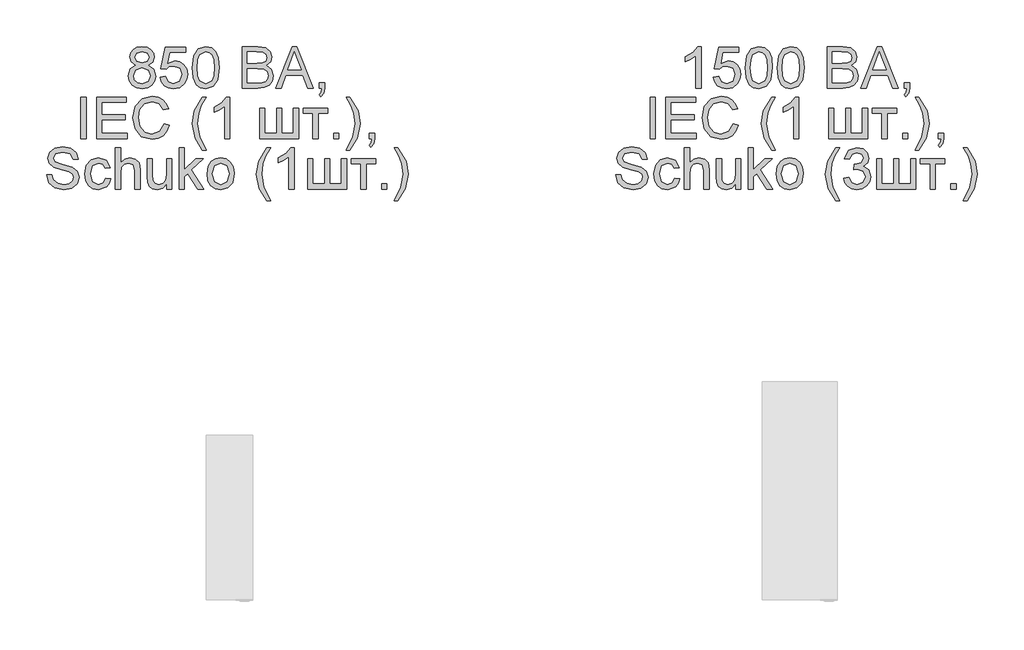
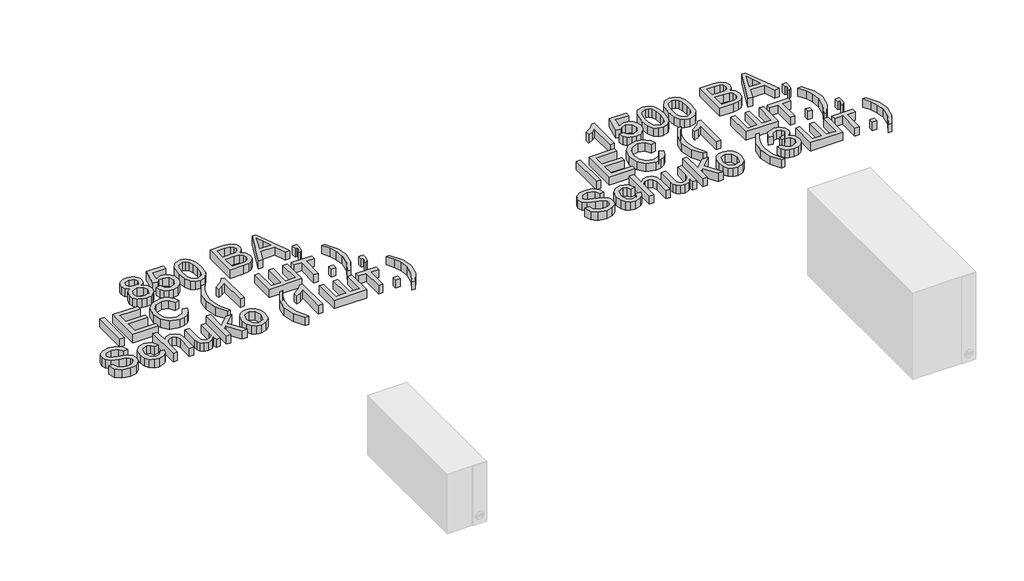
# One storey, part 13 of 74: 2 proxies.
"""IFC4 building model written with IfcOpenShell, lengths in millimetres."""

from ifc_helpers import new_model, si_unit, origin, origin_with_axes, place, context, project, spatial, polyline, outline, extrude, element, save

model = new_model("IFC4")

# Units and contexts
model_context = context("Model", 3, world=origin())
ifc_project = project(units=[si_unit("LENGTHUNIT", "METRE", prefix="MILLI")], contexts=[model_context])

# Site, building, storey
site = spatial("IfcSite", under=ifc_project)
building = spatial("IfcBuilding", under=site)
storey = spatial("IfcBuildingStorey", under=building, Name="Этаж 01", Elevation=0.0)

# Proxies
placement = place(None, origin())
element("IfcBuildingElementProxy", 1, Name="80 мм Arial", ObjectType="80 мм Arial", at=placement, inside=storey, context=model_context, shape_type="SweptSolid", body=[
    extrude(outline(polyline([(1171.9686219, -31023.994103), (1162.8157178, -31017.7548243), (1159.8432313, -31008.0427397), (1161.4619121, -31000.1896853), (1166.3179544, -30993.7002469), (1173.866893, -30989.3445241), (1183.5642624, -30987.8926165), (1193.3204929, -30989.3788598), (1200.9675333, -30993.8375895), (1205.9118673, -31000.4300349), (1207.5599786, -31008.3174249), (1204.6267329, -31017.7842549), (1195.7288937, -31023.994103), (1206.4121868, -31031.8716828), (1210.0713864, -31044.8701799), (1208.2565019, -31054.4743525), (1202.8118484, -31062.4107934), (1194.4045185, -31067.7377247), (1183.701605, -31069.5133685), (1172.9986915, -31067.7303671), (1164.5913616, -31062.3813629), (1159.1467081, -31054.368893), (1157.3318236, -31044.5954947), (1161.1381759, -31031.2928817), (1171.9686219, -31023.994103)]), holes=[polyline([(1169.8888623, -31008.3370452), (1173.4499601, -31016.2244352), (1183.8193272, -31019.2852134), (1193.9826805, -31016.2440556), (1197.5143476, -31008.7883138), (1193.8649582, -31001.067697), (1183.701605, -30997.9382475), (1173.5088212, -31000.9990257), (1169.8888623, -31008.3370452)]), polyline([(1167.3774546, -31044.242328), (1169.0549965, -31051.8059818), (1174.9901593, -31057.4664594), (1183.7800865, -31059.4677375), (1195.7485141, -31055.2591675), (1200.0257554, -31044.5562539), (1195.6111714, -31033.6473265), (1183.4465401, -31029.3308444), (1171.6252654, -31033.5884654), (1167.3774546, -31044.242328)])]), origin_with_axes(), (0.0, 0.0, 1.0), 20.0),
    extrude(outline(polyline([(1218.8613135, -31046.9106987), (1228.9069446, -31045.6549948), (1233.9690008, -31056.0047416), (1244.4659004, -31059.4677375), (1257.0621799, -31054.6509359), (1261.5552453, -31041.8682628), (1257.3466753, -31029.939076), (1244.6228634, -31025.5637328), (1235.8035057, -31027.309946), (1230.1626484, -31031.8422522), (1220.1170174, -31030.5865483), (1228.9069446, -30989.1483204), (1267.8337647, -30989.1483204), (1267.8337647, -30999.1939514), (1237.029779, -30999.1939514), (1232.7329173, -31021.3257322), (1247.4285767, -31015.5181018), (1256.8144727, -31017.318271), (1264.6062134, -31022.7187787), (1269.8522106, -31030.9495252), (1271.6008764, -31041.2404109), (1270.0263414, -31051.2860419), (1265.3027366, -31059.8797653), (1256.2577446, -31067.1049677), (1244.4266597, -31069.5133685), (1234.5600645, -31067.9658116), (1226.6996526, -31063.3231408), (1221.3114076, -31056.1249164), (1218.8613135, -31046.9106987)])), origin_with_axes(), (0.0, 0.0, 1.0), 20.0),
    extrude(outline(polyline([(1280.3908035, -31028.7226129), (1283.3436697, -31005.6000032), (1292.1139764, -30992.2679597), (1306.7605849, -30987.8926165), (1318.493568, -30990.4825058), (1326.5967821, -30997.9480577), (1331.3056716, -31009.8380038), (1333.1303663, -31028.7226129), (1330.2069307, -31051.7471207), (1321.4660545, -31065.1085947), (1306.7605849, -31069.5133685), (1296.3225464, -31067.6003821), (1288.3959157, -31061.861423), (1282.3920816, -31048.2694096), (1280.3908035, -31028.7226129)]), holes=[polyline([(1290.4364345, -31028.7029925), (1291.6136569, -31044.5047505), (1295.1453241, -31053.6502969), (1306.7605849, -31059.4677375), (1318.3758458, -31053.6306765), (1321.9075129, -31044.480225), (1323.0847353, -31028.7029925), (1321.9467537, -31013.2568538), (1318.5328088, -31004.0401835), (1313.284359, -30999.4637315), (1306.6428627, -30997.9382475), (1295.302287, -31003.3142297), (1291.6528976, -31013.1047959), (1290.4364345, -31028.7029925)])]), origin_with_axes(), (0.0, 0.0, 1.0), 20.0),
    extrude(outline(polyline([(1377.080002, -31068.2576646), (1377.080002, -30987.8926165), (1407.7466451, -30987.8926165), (1422.7660407, -30990.2568715), (1431.6344494, -30997.5262197), (1434.8423804, -31007.8072952), (1432.1445791, -31017.1956437), (1423.992314, -31024.3080289), (1433.8907923, -31031.8030114), (1437.3537881, -31044.3011891), (1434.9895332, -31055.1022045), (1429.1328518, -31062.7933907), (1420.3919756, -31066.8744283), (1407.5112007, -31068.2576646), (1377.080002, -31068.2576646)]), holes=[polyline([(1387.125633, -31020.5409173), (1405.4706819, -31020.5409173), (1416.1834056, -31019.6776209), (1422.6286981, -31015.9595602), (1424.7967493, -31009.4161658), (1422.7758509, -31002.8629612), (1416.9878409, -30998.9879375), (1404.0776354, -30997.9382475), (1387.125633, -30997.9382475), (1387.125633, -31020.5409173)]), polyline([(1387.125633, -31058.2120336), (1407.7270248, -31058.2120336), (1415.1827665, -31057.8196261), (1421.4907165, -31055.6319545), (1425.6698559, -31051.1683197), (1427.3081571, -31044.399291), (1425.3853605, -31036.5903825), (1419.1558921, -31031.9305439), (1406.7460061, -31030.5865483), (1387.125633, -31030.5865483), (1387.125633, -31058.2120336)])]), origin_with_axes(), (0.0, 0.0, 1.0), 20.0),
    extrude(outline(polyline([(1441.8076128, -31068.2576646), (1473.8869228, -30987.8926165), (1482.4414054, -30987.8926165), (1514.5207154, -31068.2576646), (1503.9060936, -31068.2576646), (1494.7041386, -31043.1435871), (1461.6045692, -31043.1435871), (1452.4222346, -31068.2576646), (1441.8076128, -31068.2576646)]), holes=[polyline([(1465.2931994, -31033.0979561), (1491.0351288, -31033.0979561), (1483.7952112, -31013.3402404), (1478.1641641, -30997.9382475), (1473.160969, -31011.6136476), (1465.2931994, -31033.0979561)])]), origin_with_axes(), (0.0, 0.0, 1.0), 20.0),
    extrude(outline(polyline([(1526.5087634, -31068.2576646), (1526.5087634, -31058.2120336), (1536.5543944, -31058.2120336), (1536.5543944, -31068.2576646), (1534.7493201, -31078.5289299), (1529.0201711, -31084.581815), (1526.5087634, -31080.8147034), (1530.1973935, -31076.4786009), (1531.5119585, -31068.2576646), (1526.5087634, -31068.2576646)])), origin_with_axes(), (0.0, 0.0, 1.0), 20.0),
    extrude(outline(polyline([(1065.6654406, -31165.8375189), (1065.6654406, -31085.4724708), (1075.7110716, -31085.4724708), (1075.7110716, -31165.8375189), (1065.6654406, -31165.8375189)])), origin_with_axes(), (0.0, 0.0, 1.0), 20.0),
    extrude(outline(polyline([(1095.8023336, -31165.8375189), (1095.8023336, -31085.4724708), (1153.5647119, -31085.4724708), (1153.5647119, -31095.5181018), (1105.8479646, -31095.5181018), (1105.8479646, -31119.3764755), (1151.0533042, -31119.3764755), (1151.0533042, -31129.4221065), (1105.8479646, -31129.4221065), (1105.8479646, -31155.7918879), (1154.8204158, -31155.7918879), (1154.8204158, -31165.8375189), (1095.8023336, -31165.8375189)])), origin_with_axes(), (0.0, 0.0, 1.0), 20.0),
    extrude(outline(polyline([(1226.3955368, -31137.2702557), (1236.4411678, -31139.8601449), (1231.8058547, -31151.56615), (1224.5316014, -31160.1181801), (1214.9764797, -31165.3494621), (1203.4985614, -31167.0932228), (1182.5930539, -31161.8153424), (1170.3303207, -31146.5310718), (1166.1217507, -31125.0467633), (1170.8796912, -31103.209288), (1184.4079384, -31089.0531889), (1203.7143855, -31084.2167669), (1214.7287725, -31085.7814917), (1223.8350781, -31090.4756659), (1230.7488071, -31098.0098892), (1235.1854639, -31108.0947609), (1225.1398329, -31110.4884465), (1216.8992762, -31098.1374216), (1203.3219781, -31094.2623979), (1187.6060592, -31098.5592596), (1178.7278404, -31110.096039), (1176.1673817, -31125.0271429), (1179.1987294, -31142.332312), (1188.6361288, -31153.3883922), (1202.4979224, -31157.0475918), (1217.8704847, -31152.064017), (1226.3955368, -31137.2702557)])), origin_with_axes(), (0.0, 0.0, 1.0), 20.0),
    extrude(outline(polyline([(1300.4820655, -31188.4401887), (1286.2180543, -31164.8761206), (1280.3908035, -31136.8974686), (1284.7465263, -31112.4701041), (1300.4820655, -31085.4724708), (1308.0162888, -31085.4724708), (1298.6181301, -31101.3845933), (1292.9674626, -31116.8062066), (1290.4364345, -31136.9563297), (1294.8313981, -31162.7080694), (1308.0162888, -31188.4401887), (1300.4820655, -31188.4401887)])), origin_with_axes(), (0.0, 0.0, 1.0), 20.0),
    extrude(outline(polyline([(1353.2216284, -31165.8375189), (1343.1759973, -31165.8375189), (1343.1759973, -31103.209288), (1333.6601164, -31109.9881269), (1323.0847353, -31115.0599934), (1323.0847353, -31105.5637328), (1337.8098253, -31096.1655741), (1346.7469052, -31085.4724708), (1353.2216284, -31085.4724708), (1353.2216284, -31165.8375189)])), origin_with_axes(), (0.0, 0.0, 1.0), 20.0),
    extrude(outline(polyline([(1410.9840067, -31106.8194367), (1421.0296377, -31106.8194367), (1421.0296377, -31155.7918879), (1443.6323075, -31155.7918879), (1443.6323075, -31106.8194367), (1453.6779385, -31106.8194367), (1453.6779385, -31155.7918879), (1476.2806083, -31155.7918879), (1476.2806083, -31106.8194367), (1486.3262393, -31106.8194367), (1486.3262393, -31165.8375189), (1410.9840067, -31165.8375189), (1410.9840067, -31106.8194367)])), origin_with_axes(), (0.0, 0.0, 1.0), 20.0),
    extrude(outline(polyline([(1495.1161664, -31106.8194367), (1542.8329138, -31106.8194367), (1542.8329138, -31116.8650677), (1523.9973556, -31116.8650677), (1523.9973556, -31165.8375189), (1513.9517246, -31165.8375189), (1513.9517246, -31116.8650677), (1495.1161664, -31116.8650677), (1495.1161664, -31106.8194367)])), origin_with_axes(), (0.0, 0.0, 1.0), 20.0),
    extrude(outline(polyline([(1554.1342487, -31165.8375189), (1554.1342487, -31155.7918879), (1564.1798797, -31155.7918879), (1564.1798797, -31165.8375189), (1554.1342487, -31165.8375189)])), origin_with_axes(), (0.0, 0.0, 1.0), 20.0),
    extrude(outline(polyline([(1585.5268456, -31188.4401887), (1577.9926223, -31188.4401887), (1591.177513, -31162.7080694), (1595.5724766, -31136.9563297), (1593.0414485, -31116.9827899), (1587.4496421, -31101.5415563), (1577.9926223, -31085.4724708), (1585.5268456, -31085.4724708), (1601.2623848, -31112.4701041), (1605.6181076, -31136.8974686), (1599.7614262, -31164.8761206), (1585.5268456, -31188.4401887)])), origin_with_axes(), (0.0, 0.0, 1.0), 20.0),
    extrude(outline(polyline([(1623.1979619, -31165.8375189), (1623.1979619, -31155.7918879), (1633.2435929, -31155.7918879), (1633.2435929, -31165.8375189), (1631.4385186, -31176.1087842), (1625.7093696, -31182.1616693), (1623.1979619, -31178.3945577), (1626.886592, -31174.0584552), (1628.201157, -31165.8375189), (1623.1979619, -31165.8375189)])), origin_with_axes(), (0.0, 0.0, 1.0), 20.0),
    extrude(outline(polyline([(999.1131351, -31235.7918879), (1009.1587661, -31235.7918879), (1012.3961277, -31245.8473291), (1020.303138, -31252.20433), (1032.3500471, -31254.627446), (1042.8469467, -31252.7929412), (1049.6257856, -31247.7505053), (1051.8526979, -31241.0109071), (1050.1849662, -31234.7421979), (1043.3570764, -31230.1804612), (1028.7300882, -31226.3446782), (1012.9847388, -31221.390534), (1004.4400664, -31213.9151719), (1001.6245428, -31203.928402), (1005.1071591, -31192.5583958), (1015.2803225, -31184.5336632), (1030.1721857, -31181.7966212), (1046.0646879, -31184.6611956), (1056.6596893, -31193.0783357), (1060.6426251, -31205.6549948), (1050.596994, -31205.6549948), (1044.9070858, -31195.3346786), (1030.5645931, -31191.8422522), (1016.1828597, -31195.2954379), (1011.6701739, -31203.6340964), (1014.8682947, -31210.5993289), (1031.2709266, -31216.2107556), (1049.0469846, -31221.2531914), (1058.7688794, -31229.3956463), (1061.8983289, -31240.7558423), (1058.2979905, -31252.7733208), (1047.9384335, -31261.5436275), (1032.7424545, -31264.6730771), (1014.7996234, -31261.2983729), (1003.4492375, -31251.1350196), (999.1131351, -31235.7918879)])), origin_with_axes(), (0.0, 0.0, 1.0), 20.0),
    extrude(outline(polyline([(1113.3821879, -31242.0704073), (1123.4278189, -31243.3261111), (1120.6270106, -31252.2607385), (1115.3638456, -31259.0125994), (1099.4321026, -31264.6730771), (1088.7463569, -31262.698777), (1080.3905306, -31256.7758769), (1074.9973805, -31247.1643466), (1073.1996638, -31234.1241562), (1076.2702522, -31217.4370289), (1085.6291702, -31206.714495), (1099.29476, -31203.1435871), (1114.5692205, -31208.0486804), (1122.172115, -31221.9791452), (1112.126484, -31223.2348491), (1107.4666454, -31215.710436), (1099.3732415, -31213.1892181), (1087.7285501, -31218.1531725), (1083.2452948, -31233.849471), (1087.6304482, -31249.6929222), (1099.0985563, -31254.627446), (1108.5653863, -31251.5470475), (1113.3821879, -31242.0704073)])), origin_with_axes(), (0.0, 0.0, 1.0), 20.0),
    extrude(outline(polyline([(1132.217746, -31263.4173732), (1132.217746, -31183.0523251), (1142.263377, -31183.0523251), (1142.263377, -31212.6006069), (1150.096811, -31205.507842), (1159.7451295, -31203.1435871), (1171.026844, -31205.7236661), (1177.8743542, -31212.8556718), (1179.9344934, -31226.0601828), (1179.9344934, -31263.4173732), (1169.8888623, -31263.4173732), (1169.8888623, -31227.1000626), (1166.6907415, -31216.5050612), (1157.6261292, -31213.1892181), (1149.3953827, -31215.4259406), (1143.9016782, -31221.4886359), (1142.263377, -31232.064017), (1142.263377, -31263.4173732), (1132.217746, -31263.4173732)])), origin_with_axes(), (0.0, 0.0, 1.0), 20.0),
    extrude(outline(polyline([(1231.4183523, -31263.4173732), (1231.4183523, -31253.2736403), (1223.5505827, -31261.8232179), (1213.2891276, -31264.6730771), (1203.8419179, -31262.671799), (1197.3279541, -31257.6489835), (1194.3358472, -31250.2521028), (1193.747236, -31240.9128053), (1193.747236, -31204.399291), (1203.792867, -31204.399291), (1203.792867, -31236.1842953), (1204.4010986, -31246.4261301), (1208.3742241, -31252.4397744), (1215.8593965, -31254.627446), (1224.2471059, -31252.3907235), (1229.7898613, -31246.2985977), (1231.4183523, -31235.1051748), (1231.4183523, -31204.399291), (1241.4639833, -31204.399291), (1241.4639833, -31263.4173732), (1231.4183523, -31263.4173732)])), origin_with_axes(), (0.0, 0.0, 1.0), 20.0),
    extrude(outline(polyline([(1255.276726, -31263.4173732), (1255.276726, -31183.0523251), (1265.322357, -31183.0523251), (1265.322357, -31226.2367662), (1287.8465453, -31204.399291), (1301.7377694, -31204.399291), (1278.9388959, -31226.5114514), (1302.9934733, -31263.4173732), (1291.2604902, -31263.4173732), (1271.738219, -31233.4963042), (1265.322357, -31239.7159625), (1265.322357, -31263.4173732), (1255.276726, -31263.4173732)])), origin_with_axes(), (0.0, 0.0, 1.0), 20.0),
    extrude(outline(polyline([(1309.2719927, -31233.9083321), (1311.444949, -31219.6786565), (1317.9638179, -31209.6771713), (1326.0179811, -31204.7769831), (1335.6613945, -31203.1435871), (1346.2147026, -31205.1326024), (1354.6441054, -31211.0996484), (1360.169693, -31220.573836), (1362.0115555, -31233.0842764), (1358.7545736, -31250.9584363), (1349.2681232, -31261.0727386), (1335.6613945, -31264.6730771), (1324.9805539, -31262.6914194), (1316.5609613, -31256.7464463), (1311.0942348, -31247.0736024), (1309.2719927, -31233.9083321)]), holes=[polyline([(1319.3176237, -31233.8887117), (1323.9676521, -31249.4574777), (1335.6613945, -31254.627446), (1347.3158961, -31249.4280472), (1351.9659245, -31233.5747857), (1347.2864655, -31218.3591864), (1335.6613945, -31213.1892181), (1323.9676521, -31218.339566), (1319.3176237, -31233.8887117)])]), origin_with_axes(), (0.0, 0.0, 1.0), 20.0),
    extrude(outline(polyline([(1424.7967493, -31286.020043), (1410.5327381, -31262.4559749), (1404.7054873, -31234.4773229), (1409.0612101, -31210.0499584), (1424.7967493, -31183.0523251), (1432.3309726, -31183.0523251), (1422.9328139, -31198.9644476), (1417.2821465, -31214.3860609), (1414.7511183, -31234.536184), (1419.1460819, -31260.2879237), (1432.3309726, -31286.020043), (1424.7967493, -31286.020043)])), origin_with_axes(), (0.0, 0.0, 1.0), 20.0),
    extrude(outline(polyline([(1477.5363122, -31263.4173732), (1467.4906812, -31263.4173732), (1467.4906812, -31200.7891423), (1457.9748002, -31207.5679812), (1447.3994191, -31212.6398477), (1447.3994191, -31203.1435871), (1462.1245091, -31193.7454284), (1471.0615891, -31183.0523251), (1477.5363122, -31183.0523251), (1477.5363122, -31263.4173732)])), origin_with_axes(), (0.0, 0.0, 1.0), 20.0),
    extrude(outline(polyline([(1503.9060936, -31204.399291), (1513.9517246, -31204.399291), (1513.9517246, -31253.3717422), (1536.5543944, -31253.3717422), (1536.5543944, -31204.399291), (1546.6000254, -31204.399291), (1546.6000254, -31253.3717422), (1569.2026952, -31253.3717422), (1569.2026952, -31204.399291), (1579.2483262, -31204.399291), (1579.2483262, -31263.4173732), (1503.9060936, -31263.4173732), (1503.9060936, -31204.399291)])), origin_with_axes(), (0.0, 0.0, 1.0), 20.0),
    extrude(outline(polyline([(1588.0382533, -31204.399291), (1635.7550007, -31204.399291), (1635.7550007, -31214.444922), (1616.9194425, -31214.444922), (1616.9194425, -31263.4173732), (1606.8738115, -31263.4173732), (1606.8738115, -31214.444922), (1588.0382533, -31214.444922), (1588.0382533, -31204.399291)])), origin_with_axes(), (0.0, 0.0, 1.0), 20.0),
    extrude(outline(polyline([(1647.0563355, -31263.4173732), (1647.0563355, -31253.3717422), (1657.1019666, -31253.3717422), (1657.1019666, -31263.4173732), (1647.0563355, -31263.4173732)])), origin_with_axes(), (0.0, 0.0, 1.0), 20.0),
    extrude(outline(polyline([(1678.4489325, -31286.020043), (1670.9147092, -31286.020043), (1684.0995999, -31260.2879237), (1688.4945635, -31234.536184), (1685.9635354, -31214.5626442), (1680.371729, -31199.1214106), (1670.9147092, -31183.0523251), (1678.4489325, -31183.0523251), (1694.1844717, -31210.0499584), (1698.5401945, -31234.4773229), (1692.6835131, -31262.4559749), (1678.4489325, -31286.020043)])), origin_with_axes(), (0.0, 0.0, 1.0), 20.0),
])
element("IfcBuildingElementProxy", 2, Name="80 мм Arial", ObjectType="80 мм Arial", at=placement, inside=storey, context=model_context, shape_type="SweptSolid", body=[
    extrude(outline(polyline([(2264.2381949, -31068.2576646), (2254.1925639, -31068.2576646), (2254.1925639, -31005.6294338), (2244.6766829, -31012.4082727), (2234.1013018, -31017.4801391), (2234.1013018, -31007.9838785), (2248.8263918, -30998.5857198), (2257.7634718, -30987.8926165), (2264.2381949, -30987.8926165), (2264.2381949, -31068.2576646)])), origin_with_axes(), (0.0, 0.0, 1.0), 20.0),
    extrude(outline(polyline([(2288.0965686, -31046.9106987), (2298.1421996, -31045.6549948), (2303.2042558, -31056.0047416), (2313.7011554, -31059.4677375), (2326.2974349, -31054.6509359), (2330.7905004, -31041.8682628), (2326.5819303, -31029.939076), (2313.8581184, -31025.5637328), (2305.0387607, -31027.309946), (2299.3979034, -31031.8422522), (2289.3522724, -31030.5865483), (2298.1421996, -30989.1483204), (2337.0690198, -30989.1483204), (2337.0690198, -30999.1939514), (2306.265034, -30999.1939514), (2301.9681723, -31021.3257322), (2316.6638318, -31015.5181018), (2326.0497277, -31017.318271), (2333.8414684, -31022.7187787), (2339.0874656, -31030.9495252), (2340.8361314, -31041.2404109), (2339.2615964, -31051.2860419), (2334.5379916, -31059.8797653), (2325.4929996, -31067.1049677), (2313.6619147, -31069.5133685), (2303.7953196, -31067.9658116), (2295.9349076, -31063.3231408), (2290.5466626, -31056.1249164), (2288.0965686, -31046.9106987)])), origin_with_axes(), (0.0, 0.0, 1.0), 20.0),
    extrude(outline(polyline([(2349.6260585, -31028.7226129), (2352.5789247, -31005.6000032), (2361.3492314, -30992.2679597), (2375.9958399, -30987.8926165), (2387.728823, -30990.4825058), (2395.8320371, -30997.9480577), (2400.5409267, -31009.8380038), (2402.3656213, -31028.7226129), (2399.4421858, -31051.7471207), (2390.7013096, -31065.1085947), (2375.9958399, -31069.5133685), (2365.5578015, -31067.6003821), (2357.6311707, -31061.861423), (2351.6273366, -31048.2694096), (2349.6260585, -31028.7226129)]), holes=[polyline([(2359.6716895, -31028.7029925), (2360.8489119, -31044.5047505), (2364.3805791, -31053.6502969), (2375.9958399, -31059.4677375), (2387.6111008, -31053.6306765), (2391.1427679, -31044.480225), (2392.3199903, -31028.7029925), (2391.1820087, -31013.2568538), (2387.7680638, -31004.0401835), (2382.519614, -30999.4637315), (2375.8781177, -30997.9382475), (2364.5375421, -31003.3142297), (2360.8881527, -31013.1047959), (2359.6716895, -31028.7029925)])]), origin_with_axes(), (0.0, 0.0, 1.0), 20.0),
    extrude(outline(polyline([(2411.1555485, -31028.7226129), (2414.1084146, -31005.6000032), (2422.8787214, -30992.2679597), (2437.5253299, -30987.8926165), (2449.258313, -30990.4825058), (2457.3615271, -30997.9480577), (2462.0704166, -31009.8380038), (2463.8951113, -31028.7226129), (2460.9716757, -31051.7471207), (2452.2307995, -31065.1085947), (2437.5253299, -31069.5133685), (2427.0872914, -31067.6003821), (2419.1606607, -31061.861423), (2413.1568265, -31048.2694096), (2411.1555485, -31028.7226129)]), holes=[polyline([(2421.2011795, -31028.7029925), (2422.3784019, -31044.5047505), (2425.910069, -31053.6502969), (2437.5253299, -31059.4677375), (2449.1405908, -31053.6306765), (2452.6722579, -31044.480225), (2453.8494803, -31028.7029925), (2452.7114987, -31013.2568538), (2449.2975537, -31004.0401835), (2444.0491039, -30999.4637315), (2437.4076077, -30997.9382475), (2426.067032, -31003.3142297), (2422.4176426, -31013.1047959), (2421.2011795, -31028.7029925)])]), origin_with_axes(), (0.0, 0.0, 1.0), 20.0),
    extrude(outline(polyline([(2507.844747, -31068.2576646), (2507.844747, -30987.8926165), (2538.5113901, -30987.8926165), (2553.5307857, -30990.2568715), (2562.3991943, -30997.5262197), (2565.6071253, -31007.8072952), (2562.909324, -31017.1956437), (2554.757059, -31024.3080289), (2564.6555372, -31031.8030114), (2568.1185331, -31044.3011891), (2565.7542781, -31055.1022045), (2559.8975968, -31062.7933907), (2551.1567206, -31066.8744283), (2538.2759456, -31068.2576646), (2507.844747, -31068.2576646)]), holes=[polyline([(2517.890378, -31020.5409173), (2536.2354268, -31020.5409173), (2546.9481505, -31019.6776209), (2553.3934431, -31015.9595602), (2555.5614943, -31009.4161658), (2553.5405959, -31002.8629612), (2547.7525858, -30998.9879375), (2534.8423804, -30997.9382475), (2517.890378, -30997.9382475), (2517.890378, -31020.5409173)]), polyline([(2517.890378, -31058.2120336), (2538.4917697, -31058.2120336), (2545.9475115, -31057.8196261), (2552.2554615, -31055.6319545), (2556.4346009, -31051.1683197), (2558.0729021, -31044.399291), (2556.1501055, -31036.5903825), (2549.9206371, -31031.9305439), (2537.5107511, -31030.5865483), (2517.890378, -31030.5865483), (2517.890378, -31058.2120336)])]), origin_with_axes(), (0.0, 0.0, 1.0), 20.0),
    extrude(outline(polyline([(2572.5723578, -31068.2576646), (2604.6516678, -30987.8926165), (2613.2061504, -30987.8926165), (2645.2854604, -31068.2576646), (2634.6708386, -31068.2576646), (2625.4688836, -31043.1435871), (2592.3693142, -31043.1435871), (2583.1869796, -31068.2576646), (2572.5723578, -31068.2576646)]), holes=[polyline([(2596.0579444, -31033.0979561), (2621.7998738, -31033.0979561), (2614.5599562, -31013.3402404), (2608.9289091, -30997.9382475), (2603.925714, -31011.6136476), (2596.0579444, -31033.0979561)])]), origin_with_axes(), (0.0, 0.0, 1.0), 20.0),
    extrude(outline(polyline([(2657.2735084, -31068.2576646), (2657.2735084, -31058.2120336), (2667.3191394, -31058.2120336), (2667.3191394, -31068.2576646), (2665.514065, -31078.5289299), (2659.7849161, -31084.581815), (2657.2735084, -31080.8147034), (2660.9621385, -31076.4786009), (2662.2767035, -31068.2576646), (2657.2735084, -31068.2576646)])), origin_with_axes(), (0.0, 0.0, 1.0), 20.0),
    extrude(outline(polyline([(2165.6654406, -31165.8375189), (2165.6654406, -31085.4724708), (2175.7110716, -31085.4724708), (2175.7110716, -31165.8375189), (2165.6654406, -31165.8375189)])), origin_with_axes(), (0.0, 0.0, 1.0), 20.0),
    extrude(outline(polyline([(2195.8023336, -31165.8375189), (2195.8023336, -31085.4724708), (2253.5647119, -31085.4724708), (2253.5647119, -31095.5181018), (2205.8479646, -31095.5181018), (2205.8479646, -31119.3764755), (2251.0533042, -31119.3764755), (2251.0533042, -31129.4221065), (2205.8479646, -31129.4221065), (2205.8479646, -31155.7918879), (2254.8204158, -31155.7918879), (2254.8204158, -31165.8375189), (2195.8023336, -31165.8375189)])), origin_with_axes(), (0.0, 0.0, 1.0), 20.0),
    extrude(outline(polyline([(2326.3955368, -31137.2702557), (2336.4411678, -31139.8601449), (2331.8058547, -31151.56615), (2324.5316014, -31160.1181801), (2314.9764797, -31165.3494621), (2303.4985614, -31167.0932228), (2282.5930539, -31161.8153424), (2270.3303207, -31146.5310718), (2266.1217507, -31125.0467633), (2270.8796912, -31103.209288), (2284.4079384, -31089.0531889), (2303.7143855, -31084.2167669), (2314.7287725, -31085.7814917), (2323.8350781, -31090.4756659), (2330.7488071, -31098.0098892), (2335.1854639, -31108.0947609), (2325.1398329, -31110.4884465), (2316.8992762, -31098.1374216), (2303.3219781, -31094.2623979), (2287.6060592, -31098.5592596), (2278.7278404, -31110.096039), (2276.1673817, -31125.0271429), (2279.1987294, -31142.332312), (2288.6361288, -31153.3883922), (2302.4979224, -31157.0475918), (2317.8704847, -31152.064017), (2326.3955368, -31137.2702557)])), origin_with_axes(), (0.0, 0.0, 1.0), 20.0),
    extrude(outline(polyline([(2400.4820655, -31188.4401887), (2386.2180543, -31164.8761206), (2380.3908035, -31136.8974686), (2384.7465263, -31112.4701041), (2400.4820655, -31085.4724708), (2408.0162888, -31085.4724708), (2398.6181301, -31101.3845933), (2392.9674626, -31116.8062066), (2390.4364345, -31136.9563297), (2394.8313981, -31162.7080694), (2408.0162888, -31188.4401887), (2400.4820655, -31188.4401887)])), origin_with_axes(), (0.0, 0.0, 1.0), 20.0),
    extrude(outline(polyline([(2453.2216284, -31165.8375189), (2443.1759973, -31165.8375189), (2443.1759973, -31103.209288), (2433.6601164, -31109.9881269), (2423.0847353, -31115.0599934), (2423.0847353, -31105.5637328), (2437.8098253, -31096.1655741), (2446.7469052, -31085.4724708), (2453.2216284, -31085.4724708), (2453.2216284, -31165.8375189)])), origin_with_axes(), (0.0, 0.0, 1.0), 20.0),
    extrude(outline(polyline([(2510.9840067, -31106.8194367), (2521.0296377, -31106.8194367), (2521.0296377, -31155.7918879), (2543.6323075, -31155.7918879), (2543.6323075, -31106.8194367), (2553.6779385, -31106.8194367), (2553.6779385, -31155.7918879), (2576.2806083, -31155.7918879), (2576.2806083, -31106.8194367), (2586.3262393, -31106.8194367), (2586.3262393, -31165.8375189), (2510.9840067, -31165.8375189), (2510.9840067, -31106.8194367)])), origin_with_axes(), (0.0, 0.0, 1.0), 20.0),
    extrude(outline(polyline([(2595.1161664, -31106.8194367), (2642.8329138, -31106.8194367), (2642.8329138, -31116.8650677), (2623.9973556, -31116.8650677), (2623.9973556, -31165.8375189), (2613.9517246, -31165.8375189), (2613.9517246, -31116.8650677), (2595.1161664, -31116.8650677), (2595.1161664, -31106.8194367)])), origin_with_axes(), (0.0, 0.0, 1.0), 20.0),
    extrude(outline(polyline([(2654.1342487, -31165.8375189), (2654.1342487, -31155.7918879), (2664.1798797, -31155.7918879), (2664.1798797, -31165.8375189), (2654.1342487, -31165.8375189)])), origin_with_axes(), (0.0, 0.0, 1.0), 20.0),
    extrude(outline(polyline([(2685.5268456, -31188.4401887), (2677.9926223, -31188.4401887), (2691.177513, -31162.7080694), (2695.5724766, -31136.9563297), (2693.0414485, -31116.9827899), (2687.4496421, -31101.5415563), (2677.9926223, -31085.4724708), (2685.5268456, -31085.4724708), (2701.2623848, -31112.4701041), (2705.6181076, -31136.8974686), (2699.7614262, -31164.8761206), (2685.5268456, -31188.4401887)])), origin_with_axes(), (0.0, 0.0, 1.0), 20.0),
    extrude(outline(polyline([(2723.1979619, -31165.8375189), (2723.1979619, -31155.7918879), (2733.2435929, -31155.7918879), (2733.2435929, -31165.8375189), (2731.4385186, -31176.1087842), (2725.7093696, -31182.1616693), (2723.1979619, -31178.3945577), (2726.886592, -31174.0584552), (2728.201157, -31165.8375189), (2723.1979619, -31165.8375189)])), origin_with_axes(), (0.0, 0.0, 1.0), 20.0),
    extrude(outline(polyline([(2099.1131351, -31235.7918879), (2109.1587661, -31235.7918879), (2112.3961277, -31245.8473291), (2120.303138, -31252.20433), (2132.3500471, -31254.627446), (2142.8469467, -31252.7929412), (2149.6257856, -31247.7505053), (2151.8526979, -31241.0109071), (2150.1849662, -31234.7421979), (2143.3570764, -31230.1804612), (2128.7300882, -31226.3446782), (2112.9847388, -31221.390534), (2104.4400664, -31213.9151719), (2101.6245428, -31203.928402), (2105.1071591, -31192.5583958), (2115.2803225, -31184.5336632), (2130.1721857, -31181.7966212), (2146.0646879, -31184.6611956), (2156.6596893, -31193.0783357), (2160.6426251, -31205.6549948), (2150.596994, -31205.6549948), (2144.9070858, -31195.3346786), (2130.5645931, -31191.8422522), (2116.1828597, -31195.2954379), (2111.6701739, -31203.6340964), (2114.8682947, -31210.5993289), (2131.2709266, -31216.2107556), (2149.0469846, -31221.2531914), (2158.7688794, -31229.3956463), (2161.8983289, -31240.7558423), (2158.2979905, -31252.7733208), (2147.9384335, -31261.5436275), (2132.7424545, -31264.6730771), (2114.7996234, -31261.2983729), (2103.4492375, -31251.1350196), (2099.1131351, -31235.7918879)])), origin_with_axes(), (0.0, 0.0, 1.0), 20.0),
    extrude(outline(polyline([(2213.3821879, -31242.0704073), (2223.4278189, -31243.3261111), (2220.6270106, -31252.2607385), (2215.3638456, -31259.0125994), (2199.4321026, -31264.6730771), (2188.7463569, -31262.698777), (2180.3905306, -31256.7758769), (2174.9973805, -31247.1643466), (2173.1996638, -31234.1241562), (2176.2702522, -31217.4370289), (2185.6291702, -31206.714495), (2199.29476, -31203.1435871), (2214.5692205, -31208.0486804), (2222.172115, -31221.9791452), (2212.126484, -31223.2348491), (2207.4666454, -31215.710436), (2199.3732415, -31213.1892181), (2187.7285501, -31218.1531725), (2183.2452948, -31233.849471), (2187.6304482, -31249.6929222), (2199.0985563, -31254.627446), (2208.5653863, -31251.5470475), (2213.3821879, -31242.0704073)])), origin_with_axes(), (0.0, 0.0, 1.0), 20.0),
    extrude(outline(polyline([(2232.217746, -31263.4173732), (2232.217746, -31183.0523251), (2242.263377, -31183.0523251), (2242.263377, -31212.6006069), (2250.096811, -31205.507842), (2259.7451295, -31203.1435871), (2271.026844, -31205.7236661), (2277.8743542, -31212.8556718), (2279.9344934, -31226.0601828), (2279.9344934, -31263.4173732), (2269.8888623, -31263.4173732), (2269.8888623, -31227.1000626), (2266.6907415, -31216.5050612), (2257.6261292, -31213.1892181), (2249.3953827, -31215.4259406), (2243.9016782, -31221.4886359), (2242.263377, -31232.064017), (2242.263377, -31263.4173732), (2232.217746, -31263.4173732)])), origin_with_axes(), (0.0, 0.0, 1.0), 20.0),
    extrude(outline(polyline([(2331.4183523, -31263.4173732), (2331.4183523, -31253.2736403), (2323.5505827, -31261.8232179), (2313.2891276, -31264.6730771), (2303.8419179, -31262.671799), (2297.3279541, -31257.6489835), (2294.3358472, -31250.2521028), (2293.747236, -31240.9128053), (2293.747236, -31204.399291), (2303.792867, -31204.399291), (2303.792867, -31236.1842953), (2304.4010986, -31246.4261301), (2308.3742241, -31252.4397744), (2315.8593965, -31254.627446), (2324.2471059, -31252.3907235), (2329.7898613, -31246.2985977), (2331.4183523, -31235.1051748), (2331.4183523, -31204.399291), (2341.4639833, -31204.399291), (2341.4639833, -31263.4173732), (2331.4183523, -31263.4173732)])), origin_with_axes(), (0.0, 0.0, 1.0), 20.0),
    extrude(outline(polyline([(2355.276726, -31263.4173732), (2355.276726, -31183.0523251), (2365.322357, -31183.0523251), (2365.322357, -31226.2367662), (2387.8465453, -31204.399291), (2401.7377694, -31204.399291), (2378.9388959, -31226.5114514), (2402.9934733, -31263.4173732), (2391.2604902, -31263.4173732), (2371.738219, -31233.4963042), (2365.322357, -31239.7159625), (2365.322357, -31263.4173732), (2355.276726, -31263.4173732)])), origin_with_axes(), (0.0, 0.0, 1.0), 20.0),
    extrude(outline(polyline([(2409.2719927, -31233.9083321), (2411.444949, -31219.6786565), (2417.9638179, -31209.6771713), (2426.0179811, -31204.7769831), (2435.6613945, -31203.1435871), (2446.2147026, -31205.1326024), (2454.6441054, -31211.0996484), (2460.169693, -31220.573836), (2462.0115555, -31233.0842764), (2458.7545736, -31250.9584363), (2449.2681232, -31261.0727386), (2435.6613945, -31264.6730771), (2424.9805539, -31262.6914194), (2416.5609613, -31256.7464463), (2411.0942348, -31247.0736024), (2409.2719927, -31233.9083321)]), holes=[polyline([(2419.3176237, -31233.8887117), (2423.9676521, -31249.4574777), (2435.6613945, -31254.627446), (2447.3158961, -31249.4280472), (2451.9659245, -31233.5747857), (2447.2864655, -31218.3591864), (2435.6613945, -31213.1892181), (2423.9676521, -31218.339566), (2419.3176237, -31233.8887117)])]), origin_with_axes(), (0.0, 0.0, 1.0), 20.0),
    extrude(outline(polyline([(2524.7967493, -31286.020043), (2510.5327381, -31262.4559749), (2504.7054873, -31234.4773229), (2509.0612101, -31210.0499584), (2524.7967493, -31183.0523251), (2532.3309726, -31183.0523251), (2522.9328139, -31198.9644476), (2517.2821465, -31214.3860609), (2514.7511183, -31234.536184), (2519.1460819, -31260.2879237), (2532.3309726, -31286.020043), (2524.7967493, -31286.020043)])), origin_with_axes(), (0.0, 0.0, 1.0), 20.0),
    extrude(outline(polyline([(2539.8651959, -31242.0704073), (2549.9108269, -31240.8147034), (2555.4535823, -31251.3900845), (2565.8229494, -31254.627446), (2578.0268215, -31250.1736213), (2582.5591277, -31239.1469717), (2578.0660622, -31228.7579841), (2566.6470051, -31224.647516), (2559.6032912, -31225.7462569), (2560.7216524, -31215.7006259), (2562.330523, -31215.8183481), (2573.7299598, -31212.9341533), (2578.792016, -31204.0657446), (2575.1230063, -31196.2077852), (2565.6659865, -31193.0979561), (2556.0912444, -31196.2372158), (2551.1665308, -31205.6549948), (2541.1208997, -31204.399291), (2549.3418361, -31188.6441314), (2565.3128197, -31183.0523251), (2577.4284001, -31185.8089875), (2585.9044013, -31193.3432107), (2588.8376471, -31203.4771334), (2586.0515541, -31212.7379495), (2577.8109974, -31219.389256), (2588.7591656, -31226.2563866), (2592.6047587, -31239.323555), (2590.6819621, -31249.1141212), (2584.9135724, -31257.2958168), (2576.2070319, -31262.828762), (2565.4697827, -31264.6730771), (2555.7576981, -31263.0985421), (2547.8506877, -31258.3749373), (2542.3520782, -31251.1497349), (2539.8651959, -31242.0704073)])), origin_with_axes(), (0.0, 0.0, 1.0), 20.0),
    extrude(outline(polyline([(2603.9060936, -31204.399291), (2613.9517246, -31204.399291), (2613.9517246, -31253.3717422), (2636.5543944, -31253.3717422), (2636.5543944, -31204.399291), (2646.6000254, -31204.399291), (2646.6000254, -31253.3717422), (2669.2026952, -31253.3717422), (2669.2026952, -31204.399291), (2679.2483262, -31204.399291), (2679.2483262, -31263.4173732), (2603.9060936, -31263.4173732), (2603.9060936, -31204.399291)])), origin_with_axes(), (0.0, 0.0, 1.0), 20.0),
    extrude(outline(polyline([(2688.0382533, -31204.399291), (2735.7550007, -31204.399291), (2735.7550007, -31214.444922), (2716.9194425, -31214.444922), (2716.9194425, -31263.4173732), (2706.8738115, -31263.4173732), (2706.8738115, -31214.444922), (2688.0382533, -31214.444922), (2688.0382533, -31204.399291)])), origin_with_axes(), (0.0, 0.0, 1.0), 20.0),
    extrude(outline(polyline([(2747.0563355, -31263.4173732), (2747.0563355, -31253.3717422), (2757.1019666, -31253.3717422), (2757.1019666, -31263.4173732), (2747.0563355, -31263.4173732)])), origin_with_axes(), (0.0, 0.0, 1.0), 20.0),
    extrude(outline(polyline([(2778.4489325, -31286.020043), (2770.9147092, -31286.020043), (2784.0995999, -31260.2879237), (2788.4945635, -31234.536184), (2785.9635354, -31214.5626442), (2780.371729, -31199.1214106), (2770.9147092, -31183.0523251), (2778.4489325, -31183.0523251), (2794.1844717, -31210.0499584), (2798.5401945, -31234.4773229), (2792.6835131, -31262.4559749), (2778.4489325, -31286.020043)])), origin_with_axes(), (0.0, 0.0, 1.0), 20.0),
])

save(model, "model.ifc")
